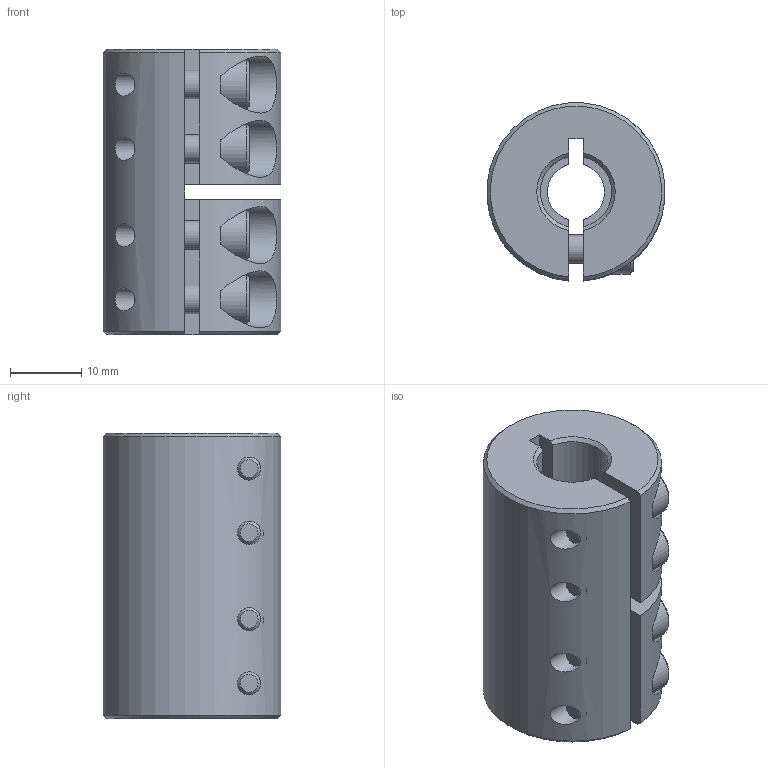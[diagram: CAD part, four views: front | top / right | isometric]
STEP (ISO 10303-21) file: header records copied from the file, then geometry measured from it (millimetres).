
FILE_DESCRIPTION(('STEP AP214'), '1');
FILE_NAME('BA-25-8-10 - Ñîåäèíèòåëüíàÿ ìóôòà', '', ('UNSPECIFIED'), ('UNSPECIFIED'), 'ASCON STEP Converter 1.3', 'ASCON Math Kernel', '');
FILE_SCHEMA(('AUTOMOTIVE_DESIGN { 1 0 10303 214 3 1 1}'));
Length unit declared in the file: millimetre
Products named in the file (3): BA-25-8-10; 擱藏.00.001
Assembly tree (5 placements, depth 2):
  BA-25-8-10
    BA-25-8-10
    擱藏.00.001  x4
Bounding box: 24.92 x 24.92 x 40 mm (x, y, z)
Volume: 15289.9 mm3; surface area: 8067.8 mm2
Topology: 5 solids, 5 shells, 128 faces, 290 edges, 180 vertices
Faces by surface type: plane 77, cylinder 29, cone 22
Full cylindrical faces by diameter (mm): 3 x4, 3.242 x4, 4 x4, 4.5 x4, 7 x4
Entity records: 3543 total; most frequent: CARTESIAN_POINT 1418, DIRECTION 292, ORIENTED_EDGE 266, EDGE_CURVE 133, AXIS2_PLACEMENT_3D 117, EDGE_LOOP 98, VERTEX_POINT 95, FACE_BOUND 71
